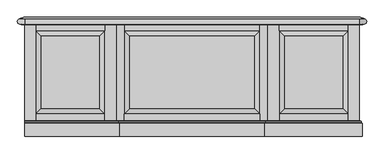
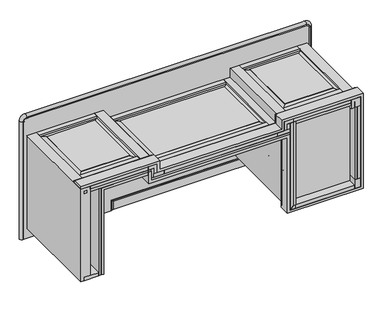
"""IFC4 building model written with IfcOpenShell, lengths in millimetres: proxy geometry, CCN^BRIGHTON_L1 36x84 LT FIXED DESK-SINGLE PED PARTS SOLID."""

from ifc_helpers import new_model, si_unit, point, frame, frame_2d, origin, origin_with_axes, place, context, project, spatial, polyline, circle_curve, ellipse_curve, trimmed, segment, composite_curve, outline, extrude, faceted_brep, source, transform, mapped, element, save
from ifc_brep_helpers import plane_surface, cylinder_surface, revolved_surface, advanced_brep


def generic_models_9f4ddb43(model_context):
    return source(origin(), model_context, "Body", "SolidModel", [
        extrude(outline(composite_curve([segment(polyline([(101.6, 1912.2818542), (101.6, 1900.9681458)]), True, "CONTINUOUS"), segment(trimmed(circle_curve(frame_2d((94.6, 1906.625)), 9.0), [point((101.6, 1900.9681458))], [point((94.6, 1897.625))], False, "CARTESIAN"), True, "CONTINUOUS"), segment(trimmed(circle_curve(frame_2d((257.1694928, 1825.625)), 177.8), [point((94.6, 1897.625))], [point((94.6, 1753.625))], True, "CARTESIAN"), True, "CONTINUOUS"), segment(trimmed(circle_curve(frame_2d((94.6, 1744.625)), 9.0), [point((94.6, 1753.625))], [point((101.6, 1750.2818542))], False, "CARTESIAN"), True, "CONTINUOUS"), segment(polyline([(101.6, 1750.2818542), (101.6, 1738.9681458)]), True, "CONTINUOUS"), segment(trimmed(circle_curve(frame_2d((94.6, 1744.625)), 9.0), [point((101.6, 1738.9681458))], [point((85.9865772, 1742.015604))], False, "CARTESIAN"), True, "CONTINUOUS"), segment(trimmed(circle_curve(frame_2d((361.975, 1825.625)), 288.375), [point((85.9865772, 1742.015604))], [point((85.9865772, 1909.234396))], False, "CARTESIAN"), True, "CONTINUOUS"), segment(trimmed(circle_curve(frame_2d((94.6, 1906.625)), 9.0), [point((85.9865772, 1909.234396))], [point((101.6, 1912.2818542))], False, "CARTESIAN"), True, "CONTINUOUS")], self_intersect=False)), frame((0.0, 413.1, 0.0), z_axis=(0.0, 1.0, 0.0), x_axis=(0.0, 0.0, 1.0)), (0.0, 0.0, 1.0), 12.0),
        extrude(outline(polyline([(1606.55, 0.0), (1606.55, 139.7), (2044.7, 139.7), (2044.7, 0.0), (1606.55, 0.0)])), frame((0.0, 0.0, 101.6), z_axis=(0.0, 0.0, 1.0), x_axis=(1.0, 0.0, 0.0)), (0.0, 0.0, 1.0), 25.4),
        advanced_brep(
        [(-21.4882387, 698.5, 0.0), (631.0882387, 698.5, 0.0), (631.0882387, 698.5, 80.1117613), (2089.15, 698.5, 80.1117613), (2110.6382387, 698.5, 101.6), (2110.6382387, 698.5, 927.1), (2089.15, 698.5, 948.5882387), (0.0, 698.5, 948.5882387), (-21.4882387, 698.5, 927.1), (2109.3555763, 738.0019522, 947.3055763), (2117.725, 734.9557311, 927.1), (2117.725, 734.9557311, 101.6), (2109.3555763, 738.0019522, 81.3944237), (2095.7609266, 742.95, 94.9890734), (2095.7609266, 742.95, 933.7109266), (-6.6109266, 742.95, 933.7109266), (-20.2055763, 738.0019522, 947.3055763), (0.0, 734.9557311, 955.675), (2089.15, 734.9557311, 955.675), (2089.15, 733.3682311, 955.675), (2117.725, 733.3682311, 927.1), (2089.15, 734.9557311, 73.025), (638.175, 734.9557311, 73.025), (616.2109266, 742.95, 94.9890734), (2117.725, 733.3682311, 101.6), (2089.15, 733.3682311, 73.025), (-28.575, 734.9557311, 927.1), (-28.575, 733.3682311, 927.1), (0.0, 733.3682311, 955.675), (-6.6109266, 742.95, 0.0), (-28.575, 734.9557311, 0.0), (638.175, 734.9557311, 0.0), (616.2109266, 742.95, 0.0), (-27.4410714, 701.6587803, 927.1), (-28.575, 733.3682311, 0.0), (-27.4410714, 701.6587803, 0.0), (0.0, 701.6587803, 954.5410714), (638.175, 733.3682311, 0.0), (637.0410714, 701.6587803, 0.0), (637.0410714, 701.6587803, 74.1589286), (636.5875, 701.675, 74.6125), (638.175, 733.3682311, 73.025), (638.175, 701.6182311, 73.025), (2089.15, 701.6587803, 74.1589286), (2089.15, 701.6587803, 954.5410714), (2116.5910714, 701.6587803, 101.6), (2116.5910714, 701.6587803, 927.1)],
        [
            (0, 1),
            (1, 2),
            (2, 3),
            (3, 4, circle_curve(frame((2089.15, 698.5, 101.6), z_axis=(0.0, -1.0, 0.0), x_axis=(1.0, 0.0, 0.0)), 21.4882387)),
            (4, 5),
            (5, 6, circle_curve(frame((2089.15, 698.5, 927.1), z_axis=(0.0, -1.0, 0.0), x_axis=(0.0, 0.0, 1.0)), 21.4882387)),
            (6, 7),
            (7, 8, circle_curve(frame((0.0, 698.5, 927.1), z_axis=(0.0, -1.0, 0.0), x_axis=(0.0, 0.0, 1.0)), 21.4882387)),
            (8, 0),
            (9, 10, ellipse_curve(frame((2089.15, 745.3561805, 927.1), z_axis=(0.34202014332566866, 0.9396926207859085, 0.0), x_axis=(-0.9396926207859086, 0.3420201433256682, 0.0)), 30.4088798, 28.575)),
            (10, 11),
            (11, 12, ellipse_curve(frame((2089.15, 745.3561805, 101.6), z_axis=(0.34202014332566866, 0.9396926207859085, 0.0), x_axis=(-0.9396926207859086, 0.3420201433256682, 0.0)), 30.4088798, 28.575)),
            (12, 13),
            (13, 14),
            (14, 9),
            (14, 15),
            (15, 16),
            (16, 17, ellipse_curve(frame((0.0, 745.3561805, 927.1), z_axis=(0.0, 0.9396926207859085, 0.3420201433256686), x_axis=(0.0, -0.34202014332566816, 0.9396926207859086)), 30.4088798, 28.575)),
            (17, 18),
            (18, 9, ellipse_curve(frame((2089.15, 745.3561805, 927.1), z_axis=(0.0, 0.9396926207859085, 0.3420201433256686), x_axis=(0.0, 0.34202014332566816, -0.9396926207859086)), 30.4088798, 28.575)),
            (18, 19),
            (19, 20, circle_curve(frame((2089.15, 733.3682311, 927.1), z_axis=(0.0, 1.0, 0.0), x_axis=(0.0, 0.0, 1.0)), 28.575)),
            (20, 10),
            (12, 21, ellipse_curve(frame((2089.15, 745.3561805, 101.6), z_axis=(0.0, 0.9396926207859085, -0.3420201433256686), x_axis=(0.0, 0.34202014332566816, 0.9396926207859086)), 30.4088798, 28.575)),
            (21, 22),
            (22, 23),
            (23, 13),
            (11, 24),
            (24, 25, circle_curve(frame((2089.15, 733.3682311, 101.6), z_axis=(0.0, 1.0, 0.0), x_axis=(1.0, 0.0, 0.0)), 28.575)),
            (25, 21),
            (16, 26, ellipse_curve(frame((0.0, 745.3561805, 927.1), z_axis=(0.3420201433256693, -0.9396926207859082, 0.0), x_axis=(-0.9396926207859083, -0.3420201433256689, 0.0)), 30.4088798, 28.575)),
            (26, 27),
            (27, 28, circle_curve(frame((0.0, 733.3682311, 927.1), z_axis=(0.0, 1.0, 0.0), x_axis=(1.0, 0.0, 0.0)), 28.575)),
            (28, 17),
            (15, 29),
            (29, 30),
            (30, 26),
            (31, 32),
            (32, 23),
            (22, 31),
            (32, 29),
            (33, 27, circle_curve(frame((-28.575, 717.4932311, 927.1), z_axis=(0.0, 0.0, -1.0), x_axis=(-0.9993612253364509, -0.03573711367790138, 0.0)), 15.875)),
            (27, 34),
            (34, 35, circle_curve(frame((-28.575, 717.4932311, 0.0), z_axis=(0.0, 0.0, 1.0), x_axis=(-0.9993612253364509, -0.03573711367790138, 0.0)), 15.875)),
            (35, 33),
            (8, 33, circle_curve(frame((-26.9875, 695.325, 927.1), z_axis=(0.0, 0.0, 1.0), x_axis=(0.07142857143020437, -0.9974457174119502, 0.0)), 6.35)),
            (35, 0, circle_curve(frame((-26.9875, 695.325, 0.0), z_axis=(0.0, 0.0, -1.0), x_axis=(0.07142857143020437, -0.9974457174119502, 0.0)), 6.35)),
            (30, 34),
            (36, 28, circle_curve(frame((0.0, 717.4932311, 955.675), z_axis=(-1.0, 0.0, 0.0), x_axis=(0.0, 0.0, 1.0)), 15.875)),
            (33, 36, circle_curve(frame((0.0, 701.6587803, 927.1), z_axis=(0.0, 1.0, 0.0), x_axis=(0.0, 0.0, 1.0)), 27.4410714)),
            (7, 36, circle_curve(frame((0.0, 695.325, 954.0875), z_axis=(1.0, 0.0, 0.0), x_axis=(0.0, 0.0, 1.0)), 6.35)),
            (31, 37),
            (37, 38, circle_curve(frame((638.175, 717.4932311, 0.0), z_axis=(0.0, 0.0, -1.0), x_axis=(0.999361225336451, -0.03573711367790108, 0.0)), 15.875)),
            (38, 1, circle_curve(frame((636.5875, 695.325, 0.0), z_axis=(0.0, 0.0, 1.0), x_axis=(0.866025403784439, -0.4999999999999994, 0.0)), 6.35)),
            (39, 40, ellipse_curve(frame((636.5875, 695.325, 74.6125), z_axis=(0.7071067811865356, 0.0, 0.7071067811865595), x_axis=(-0.7071067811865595, 0.0, 0.7071067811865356)), 8.9802561, 6.35)),
            (40, 2, ellipse_curve(frame((636.5875, 695.325, 74.6125), z_axis=(0.7071067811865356, 0.0, 0.7071067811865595), x_axis=(-0.7071067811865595, 0.0, 0.7071067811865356)), 8.9802561, 6.35)),
            (38, 39),
            (41, 42, ellipse_curve(frame((638.175, 717.4932311, 73.025), z_axis=(-0.7071067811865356, 0.0, -0.7071067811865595), x_axis=(-0.7071067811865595, 0.0, 0.7071067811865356)), 22.4506403, 15.875)),
            (42, 39, ellipse_curve(frame((638.175, 717.4932311, 73.025), z_axis=(-0.7071067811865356, 0.0, -0.7071067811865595), x_axis=(-0.7071067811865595, 0.0, 0.7071067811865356)), 22.4506403, 15.875)),
            (37, 41),
            (22, 41),
            (41, 25),
            (25, 43, circle_curve(frame((2089.15, 717.4932311, 73.025), z_axis=(-1.0, 0.0, 0.0), x_axis=(0.0, 0.996424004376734, -0.08449380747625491)), 15.875)),
            (43, 39),
            (6, 44, circle_curve(frame((2089.15, 695.325, 954.0875), z_axis=(1.0, 0.0, 0.0), x_axis=(0.0, 0.9974457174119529, 0.07142857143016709)), 6.35)),
            (44, 36),
            (43, 3, circle_curve(frame((2089.15, 695.325, 74.6125), z_axis=(1.0, 0.0, 0.0), x_axis=(0.0, 0.9974457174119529, -0.07142857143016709)), 6.35)),
            (45, 4, circle_curve(frame((2116.1375, 695.325, 101.6), z_axis=(0.0, 0.0, 1.0), x_axis=(1.0, 0.0, 0.0)), 6.35)),
            (43, 45, circle_curve(frame((2089.15, 701.6587803, 101.6), z_axis=(0.0, -1.0, 0.0), x_axis=(1.0, 0.0, 0.0)), 27.4410714)),
            (46, 5, circle_curve(frame((2116.1375, 695.325, 927.1), z_axis=(0.0, 0.0, 1.0), x_axis=(0.07142857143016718, 0.9974457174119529, 0.0)), 6.35)),
            (45, 46),
            (46, 44, circle_curve(frame((2089.15, 701.6587803, 927.1), z_axis=(0.0, -1.0, 0.0), x_axis=(0.0, 0.0, 1.0)), 27.4410714)),
            (28, 19),
            (44, 19, circle_curve(frame((2089.15, 717.4932311, 955.675), z_axis=(-1.0, 0.0, 0.0), x_axis=(0.0, 0.996424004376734, 0.08449380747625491)), 15.875)),
            (24, 45, circle_curve(frame((2117.725, 717.4932311, 101.6), z_axis=(0.0, 0.0, -1.0), x_axis=(1.0, 0.0, 0.0)), 15.875)),
            (20, 24),
            (20, 46, circle_curve(frame((2117.725, 717.4932311, 927.1), z_axis=(0.0, 0.0, -1.0), x_axis=(0.084493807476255, 0.996424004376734, 0.0)), 15.875)),
        ],
        [
            plane_surface(frame((1066.8, 698.5, 514.35), z_axis=(0.0, -1.0, 0.0), x_axis=(0.0, 0.0, -1.0))),
            plane_surface(frame((2117.725, 734.9557311, 927.1), z_axis=(0.34202014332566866, 0.9396926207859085, 0.0), x_axis=(-0.9396926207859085, 0.34202014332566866, 0.0))),
            plane_surface(frame((44.45, 734.9557311, 955.675), z_axis=(0.0, 0.9396926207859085, 0.3420201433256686), x_axis=(0.0, 0.3420201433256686, -0.9396926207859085))),
            cylinder_surface(frame((2089.15, 734.1619811, 927.1), z_axis=(0.0, 1.0, 0.0), x_axis=(0.0, 0.0, 1.0)), 28.575),
            plane_surface(frame((2089.15, 734.9557311, 73.025), z_axis=(0.0, 0.9396926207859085, -0.3420201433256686), x_axis=(0.0, 0.3420201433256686, 0.9396926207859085))),
            cylinder_surface(frame((2089.15, 734.1619811, 101.6), z_axis=(0.0, 1.0, 0.0), x_axis=(1.0, 0.0, 0.0)), 28.575),
            cylinder_surface(frame((0.0, 734.1619811, 927.1), z_axis=(0.0, -1.0, 0.0), x_axis=(1.0, 0.0, 0.0)), 28.575),
            plane_surface(frame((-28.575, 734.9557311, 927.1), z_axis=(-0.3420201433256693, 0.9396926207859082, 0.0), x_axis=(0.9396926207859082, 0.3420201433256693, 0.0))),
            plane_surface(frame((638.175, 734.9557311, 0.0), z_axis=(0.342020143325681, 0.939692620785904, 0.0), x_axis=(-0.939692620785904, 0.342020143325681, 0.0))),
            plane_surface(frame((1066.8, 742.95, 514.35), z_axis=(0.0, 1.0, 0.0), x_axis=(0.0, 0.0, -1.0))),
            cylinder_surface(frame((-28.575, 717.4932311, 927.1), z_axis=(0.0, 0.0, -0.9999999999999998), x_axis=(-0.9993612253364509, -0.03573711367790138, 0.0)), 15.875),
            revolved_surface(polyline([(-26.533928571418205, 688.9912196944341, 2.2737367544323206e-13), (-26.533928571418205, 688.9912196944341, 927.1)]), (-26.9875, 695.325, 927.1), (0.0, 0.0, -0.9999999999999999)),
            plane_surface(frame((-28.575, 733.3682311, 927.1), z_axis=(-1.0, 0.0, 0.0), x_axis=(0.0, 1.0, 0.0))),
            revolved_surface(trimmed(ellipse_curve(frame((0.0, 717.4932311, 955.675), z_axis=(1.0, 0.0, 0.0), x_axis=(0.0, 0.0, 1.0)), 15.875, 15.875), [point((0.0, 733.3682311, 955.675))], [point((0.0, 701.6587803, 954.5410714))], True, "CARTESIAN"), (0.0, 717.4932311, 927.1), (0.0, -1.0, 0.0)),
            revolved_surface(trimmed(ellipse_curve(frame((0.0, 695.325, 954.0875), z_axis=(-1.0, 0.0, 0.0), x_axis=(0.0, 0.0, 1.0)), 6.35, 6.35), [point((0.0, 701.6587803, 954.5410714))], [point((0.0, 698.5, 948.5882387))], True, "CARTESIAN"), (0.0, 695.325, 927.1), (0.0, -1.0, 0.0)),
            plane_surface(frame((-22.225, 720.725, 0.0), z_axis=(0.0, 0.0, -1.0), x_axis=(-1.0, 0.0, 0.0))),
            revolved_surface(polyline([(642.0867613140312, 692.1500000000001, 80.96249998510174), (642.0867613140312, 692.1500000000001, 0.0)]), (636.5875, 695.325, 0.0), (0.0, 0.0, 1.0)),
            cylinder_surface(frame((638.175, 717.4932311, 0.0), z_axis=(0.0, 0.0, 1.0), x_axis=(0.999361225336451, -0.03573711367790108, 0.0)), 15.875),
            plane_surface(frame((638.175, 733.3682311, 0.0), z_axis=(1.0, 0.0, 0.0), x_axis=(0.0, 1.0, 0.0))),
            cylinder_surface(frame((2089.15, 717.4932311, 73.025), z_axis=(-0.9999999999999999, 0.0, 0.0), x_axis=(0.0, 0.996424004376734, -0.08449380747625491)), 15.875),
            plane_surface(frame((2089.15, 733.3682311, 73.025), z_axis=(0.0, 0.0, -1.0), x_axis=(0.0, 1.0, 0.0))),
            revolved_surface(polyline([(2089.1499999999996, 701.658780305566, 954.5410714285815), (1.4210854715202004e-14, 701.658780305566, 954.5410714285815)]), (44.45, 695.325, 954.0875), (0.9999999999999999, 0.0, 0.0)),
            revolved_surface(polyline([(630.2375000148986, 701.658780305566, 74.15892857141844), (2089.15, 701.658780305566, 74.15892857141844)]), (2089.15, 695.325, 74.6125), (-0.9999999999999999, 0.0, 0.0)),
            revolved_surface(trimmed(ellipse_curve(frame((2116.1375, 695.325, 101.6), z_axis=(0.0, 0.0, -1.0), x_axis=(1.0, 0.0, 0.0)), 6.35, 6.35), [point((2110.6382387, 698.5, 101.6))], [point((2116.5910714, 701.6587803, 101.6))], True, "CARTESIAN"), (2089.15, 695.325, 101.6), (0.0, 1.0, 0.0)),
            revolved_surface(polyline([(2116.5910714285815, 701.658780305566, 101.60000000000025), (2116.5910714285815, 701.658780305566, 927.1)]), (2116.1375, 695.325, 927.1), (0.0, 0.0, -0.9999999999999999)),
            revolved_surface(trimmed(ellipse_curve(frame((2089.15, 695.325, 954.0875), z_axis=(1.0, 0.0, 0.0), x_axis=(0.0, 0.0, 1.0)), 6.35, 6.35), [point((2089.15, 698.5, 948.5882387))], [point((2089.15, 701.6587803, 954.5410714))], True, "CARTESIAN"), (2089.15, 695.325, 927.1), (0.0, 1.0, 0.0)),
            plane_surface(frame((44.45, 733.3682311, 955.675), z_axis=(0.0, 0.0, 1.0), x_axis=(0.0, 1.0, 0.0))),
            cylinder_surface(frame((44.45, 717.4932311, 955.675), z_axis=(0.9999999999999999, 0.0, 0.0), x_axis=(0.0, 0.996424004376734, 0.08449380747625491)), 15.875),
            revolved_surface(trimmed(ellipse_curve(frame((2117.725, 717.4932311, 101.6), z_axis=(0.0, 0.0, 1.0), x_axis=(1.0, 0.0, 0.0)), 15.875, 15.875), [point((2116.5910714, 701.6587803, 101.6))], [point((2117.725, 733.3682311, 101.6))], True, "CARTESIAN"), (2089.15, 717.4932311, 101.6), (0.0, 1.0, 0.0)),
            plane_surface(frame((2117.725, 733.3682311, 927.1), z_axis=(1.0, 0.0, 0.0), x_axis=(0.0, 1.0, 0.0))),
            cylinder_surface(frame((2117.725, 717.4932311, 927.1), z_axis=(0.0, 0.0, -0.9999999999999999), x_axis=(0.084493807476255, 0.996424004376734, 0.0)), 15.875),
            revolved_surface(trimmed(ellipse_curve(frame((2089.15, 717.4932311, 955.675), z_axis=(-1.0, 0.0, 0.0), x_axis=(0.0, 0.0, 1.0)), 15.875, 15.875), [point((2089.15, 701.6587803, 954.5410714))], [point((2089.15, 733.3682311, 955.675))], True, "CARTESIAN"), (2089.15, 717.4932311, 927.1), (0.0, 1.0, 0.0)),
        ],
        [
            (0, [[1, 2, 3, 4, 5, 6, 7, 8, 9]]),
            (1, [[10, 11, 12, 13, 14, 15]]),
            (2, [[-15, 16, 17, 18, 19, 20]]),
            (3, [[-10, -20, 21, 22, 23]]),
            (4, [[24, 25, 26, 27, -13]]),
            (5, [[-24, -12, 28, 29, 30]]),
            (6, [[-18, 31, 32, 33, 34]]),
            (7, [[-17, 35, 36, 37, -31]]),
            (8, [[38, 39, -26, 40]]),
            (9, [[41, -35, -16, -14, -27, -39]]),
            (10, [[42, 43, 44, 45]]),
            (11, [[46, -45, 47, -9]]),
            (12, [[-32, -37, 48, -43]]),
            (13, [[49, -33, -42, 50]]),
            (14, [[51, -50, -46, -8]]),
            (15, [[-38, 52, 53, 54, -1, -47, -44, -48, -36, -41]]),
            (16, [[55, 56, -2, -54, 57]]),
            (17, [[58, 59, -57, -53, 60]]),
            (18, [[61, -60, -52, -40]]),
            (19, [[-59, -58, 62, 63, 64]]),
            (20, [[-61, -25, -30, -62]]),
            (21, [[-7, 65, 66, -51]]),
            (22, [[-56, -55, -64, 67, -3]]),
            (23, [[68, -4, -67, 69]]),
            (24, [[70, -5, -68, 71]]),
            (25, [[-65, -6, -70, 72]]),
            (26, [[73, -21, -19, -34]]),
            (27, [[-66, 74, -73, -49]]),
            (28, [[75, -69, -63, -29]]),
            (29, [[-23, 76, -28, -11]]),
            (30, [[77, -71, -75, -76]]),
            (31, [[-74, -72, -77, -22]]),
        ],
    ),
        extrude(outline(polyline([(1466.85, 139.7), (1466.85, 0.0), (622.3, 0.0), (622.3, 139.7), (1466.85, 139.7)])), frame((0.0, 0.0, 717.55), z_axis=(0.0, 0.0, 1.0), x_axis=(1.0, 0.0, 0.0)), (0.0, 0.0, 1.0), 25.4),
        extrude(outline(polyline([(25.4, 0.0), (25.4, 704.85), (44.45, 704.85), (44.45, 0.0), (25.4, 0.0)])), frame((0.0, 0.0, 768.35), z_axis=(0.0, 0.0, 1.0), x_axis=(1.0, 0.0, 0.0)), (0.0, 0.0, 1.0), 19.05),
        extrude(outline(polyline([(546.1, 0.0), (546.1, 704.85), (622.3, 704.85), (622.3, 0.0), (546.1, 0.0)])), frame((0.0, 0.0, 717.55), z_axis=(0.0, 0.0, 1.0), x_axis=(1.0, 0.0, 0.0)), (0.0, 0.0, 1.0), 25.4),
        extrude(outline(polyline([(1466.85, 704.85), (1562.1, 704.85), (1562.1, 0.0), (1466.85, 0.0), (1466.85, 704.85)])), frame((0.0, 0.0, 717.55), z_axis=(0.0, 0.0, 1.0), x_axis=(1.0, 0.0, 0.0)), (0.0, 0.0, 1.0), 25.4),
        extrude(outline(polyline([(133.35, 704.85), (133.35, 0.0), (25.4, 0.0), (25.4, 704.85), (133.35, 704.85)])), frame((0.0, 0.0, 82.55), z_axis=(0.0, 0.0, 1.0), x_axis=(1.0, 0.0, 0.0)), (0.0, 0.0, 1.0), 25.4),
        advanced_brep(
        [(590.55, 79.375, 831.85), (584.2, 85.725, 825.5), (0.0, 85.725, 825.5), (0.0, 79.375, 831.85), (577.85, 92.075, 819.15), (0.0, 92.075, 819.15), (577.85, 95.25, 819.15), (0.0, 95.25, 819.15), (577.85, 95.25, 749.3), (1511.3, 95.25, 749.3), (1511.3, 95.25, 819.15), (2095.5, 95.25, 819.15), (2095.5, 95.25, 95.25), (1555.75, 95.25, 95.25), (1555.75, 95.25, 692.15), (520.7, 95.25, 692.15), (520.7, 95.25, 762.0), (158.75, 95.25, 762.0), (158.75, 95.25, 82.55), (152.4, 95.25, 82.55), (152.4, 95.25, 768.35), (527.05, 95.25, 768.35), (527.05, 95.25, 698.5), (1562.1, 95.25, 698.5), (1562.1, 95.25, 101.6), (2089.15, 95.25, 101.6), (2089.15, 95.25, 812.8), (1517.65, 95.25, 812.8), (1517.65, 95.25, 742.95), (571.5, 95.25, 742.95), (571.5, 95.25, 812.8), (0.0, 95.25, 812.8), (584.2, 85.725, 755.65), (577.85, 92.075, 749.3), (590.55, 79.375, 762.0), (152.4, 0.0, 768.35), (152.4, 0.0, 82.55), (158.75, 92.075, 762.0), (158.75, 92.075, 82.55), (165.1, 85.725, 755.65), (165.1, 85.725, 82.55), (171.45, 79.375, 749.3), (171.45, 79.375, 82.55), (171.45, 0.0, 749.3), (171.45, 0.0, 82.55), (508.0, 0.0, 749.3), (508.0, 0.0, 679.45), (1543.05, 0.0, 679.45), (1543.05, 0.0, 82.55), (2108.2, 0.0, 82.55), (2108.2, 0.0, 831.85), (1498.6, 0.0, 831.85), (1498.6, 0.0, 762.0), (590.55, 0.0, 762.0), (590.55, 0.0, 831.85), (0.0, 0.0, 831.85), (0.0, 0.0, 812.8), (571.5, 0.0, 812.8), (571.5, 0.0, 742.95), (1517.65, 0.0, 742.95), (1517.65, 0.0, 812.8), (2089.15, 0.0, 812.8), (2089.15, 0.0, 101.6), (1562.1, 0.0, 101.6), (1562.1, 0.0, 698.5), (527.05, 0.0, 698.5), (527.05, 0.0, 768.35), (508.0, 79.375, 749.3), (514.35, 85.725, 755.65), (520.7, 92.075, 762.0), (520.7, 92.075, 692.15), (514.35, 85.725, 685.8), (508.0, 79.375, 679.45), (1555.75, 92.075, 692.15), (1549.4, 85.725, 685.8), (1543.05, 79.375, 679.45), (1555.75, 92.075, 95.25), (1549.4, 85.725, 88.9), (1543.05, 79.375, 82.55), (2095.5, 92.075, 95.25), (2101.85, 85.725, 88.9), (2108.2, 79.375, 82.55), (2095.5, 92.075, 819.15), (2101.85, 85.725, 825.5), (2108.2, 79.375, 831.85), (1511.3, 92.075, 819.15), (1504.95, 85.725, 825.5), (1498.6, 79.375, 831.85), (1511.3, 92.075, 749.3), (1504.95, 85.725, 755.65), (1498.6, 79.375, 762.0)],
        [
            (0, 1, ellipse_curve(frame((590.55, 85.725, 831.85), z_axis=(0.7071067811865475, 0.0, -0.7071067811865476), x_axis=(0.7071067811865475, 0.0, 0.7071067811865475)), 8.9802561, 6.35)),
            (1, 2),
            (2, 3, circle_curve(frame((0.0, 85.725, 831.85), z_axis=(-1.0, 0.0, 0.0), x_axis=(0.0, 0.0, -1.0)), 6.35)),
            (3, 0),
            (1, 4, ellipse_curve(frame((577.85, 85.725, 819.15), z_axis=(-0.7071067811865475, 0.0, 0.7071067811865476), x_axis=(0.7071067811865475, 0.0, 0.7071067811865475)), 8.9802561, 6.35)),
            (4, 5),
            (5, 2, circle_curve(frame((0.0, 85.725, 819.15), z_axis=(1.0, 0.0, 0.0), x_axis=(0.0, 0.0, -1.0)), 6.35)),
            (4, 6),
            (6, 7),
            (7, 5),
            (6, 8),
            (8, 9),
            (9, 10),
            (10, 11),
            (11, 12),
            (12, 13),
            (13, 14),
            (14, 15),
            (15, 16),
            (16, 17),
            (17, 18),
            (18, 19),
            (19, 20),
            (20, 21),
            (21, 22),
            (22, 23),
            (23, 24),
            (24, 25),
            (25, 26),
            (26, 27),
            (27, 28),
            (28, 29),
            (29, 30),
            (30, 31),
            (31, 7),
            (1, 32),
            (32, 33, ellipse_curve(frame((577.85, 85.725, 749.3), z_axis=(-0.7071067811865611, 0.0, 0.7071067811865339), x_axis=(-0.7071067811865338, 0.0, -0.7071067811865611)), 8.9802561, 6.35)),
            (33, 4),
            (0, 34),
            (34, 32, ellipse_curve(frame((590.55, 85.725, 762.0), z_axis=(0.7071067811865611, 0.0, -0.7071067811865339), x_axis=(-0.7071067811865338, 0.0, -0.7071067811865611)), 8.9802561, 6.35)),
            (35, 20),
            (19, 36),
            (36, 35),
            (17, 37),
            (37, 38),
            (38, 18),
            (37, 39, ellipse_curve(frame((158.75, 85.725, 762.0), z_axis=(-0.7071067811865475, 0.0, -0.7071067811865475), x_axis=(-0.7071067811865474, 0.0, 0.7071067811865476)), 8.9802561, 6.35)),
            (39, 40),
            (40, 38, circle_curve(frame((158.75, 85.725, 82.55), z_axis=(0.0, 0.0, 1.0), x_axis=(-3.670123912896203e-12, 1.0, 0.0)), 6.35)),
            (39, 41, ellipse_curve(frame((171.45, 85.725, 749.3), z_axis=(0.7071067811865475, 0.0, 0.7071067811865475), x_axis=(-0.7071067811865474, 0.0, 0.7071067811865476)), 8.9802561, 6.35)),
            (41, 42),
            (42, 40, circle_curve(frame((171.45, 85.725, 82.55), z_axis=(0.0, 0.0, -1.0), x_axis=(0.0, 1.0, 0.0)), 6.35)),
            (41, 43),
            (43, 44),
            (44, 42),
            (44, 36),
            (43, 45),
            (45, 46),
            (46, 47),
            (47, 48),
            (48, 49),
            (49, 50),
            (50, 51),
            (51, 52),
            (52, 53),
            (53, 54),
            (54, 55),
            (55, 56),
            (56, 57),
            (57, 58),
            (58, 59),
            (59, 60),
            (60, 61),
            (61, 62),
            (62, 63),
            (63, 64),
            (64, 65),
            (65, 66),
            (66, 35),
            (41, 67),
            (67, 45),
            (39, 68),
            (68, 67, ellipse_curve(frame((508.0, 85.725, 749.3), z_axis=(0.7071067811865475, 0.0, -0.7071067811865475), x_axis=(-0.7071067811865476, 0.0, -0.7071067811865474)), 8.9802561, 6.35)),
            (37, 69),
            (69, 68, ellipse_curve(frame((520.7, 85.725, 762.0), z_axis=(-0.7071067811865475, 0.0, 0.7071067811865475), x_axis=(-0.7071067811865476, 0.0, -0.7071067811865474)), 8.9802561, 6.35)),
            (66, 21),
            (16, 69),
            (70, 71, ellipse_curve(frame((520.7, 85.725, 692.15), z_axis=(-0.7071067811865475, 0.0, 0.7071067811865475), x_axis=(0.7071067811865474, 0.0, 0.7071067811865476)), 8.9802561, 6.35)),
            (71, 68),
            (69, 70),
            (71, 72, ellipse_curve(frame((508.0, 85.725, 679.45), z_axis=(0.7071067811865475, 0.0, -0.7071067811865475), x_axis=(0.7071067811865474, 0.0, 0.7071067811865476)), 8.9802561, 6.35)),
            (72, 67),
            (15, 70),
            (73, 74, ellipse_curve(frame((1555.75, 85.725, 692.15), z_axis=(-0.7071067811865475, 0.0, 0.7071067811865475), x_axis=(-0.7071067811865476, 0.0, -0.7071067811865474)), 8.9802561, 6.35)),
            (74, 71),
            (70, 73),
            (74, 75, ellipse_curve(frame((1543.05, 85.725, 679.45), z_axis=(0.7071067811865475, 0.0, -0.7071067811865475), x_axis=(-0.7071067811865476, 0.0, -0.7071067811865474)), 8.9802561, 6.35)),
            (75, 72),
            (14, 73),
            (76, 77, ellipse_curve(frame((1555.75, 85.725, 95.25), z_axis=(-0.7071067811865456, 0.0, 0.7071067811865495), x_axis=(0.7071067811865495, 0.0, 0.7071067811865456)), 8.9802561, 6.35)),
            (77, 74),
            (73, 76),
            (77, 78, ellipse_curve(frame((1543.05, 85.725, 82.55), z_axis=(0.7071067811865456, 0.0, -0.7071067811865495), x_axis=(0.7071067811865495, 0.0, 0.7071067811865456)), 8.9802561, 6.35)),
            (78, 75),
            (13, 76),
            (79, 80, ellipse_curve(frame((2095.5, 85.725, 95.25), z_axis=(-0.7071067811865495, 0.0, -0.7071067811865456), x_axis=(-0.7071067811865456, 0.0, 0.7071067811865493)), 8.9802561, 6.35)),
            (80, 77),
            (76, 79),
            (80, 81, ellipse_curve(frame((2108.2, 85.725, 82.55), z_axis=(0.7071067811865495, 0.0, 0.7071067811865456), x_axis=(-0.7071067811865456, 0.0, 0.7071067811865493)), 8.9802561, 6.35)),
            (81, 78),
            (12, 79),
            (82, 83, ellipse_curve(frame((2095.5, 85.725, 819.15), z_axis=(0.7071067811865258, 0.0, -0.7071067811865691), x_axis=(-0.7071067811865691, 0.0, -0.707106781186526)), 8.9802561, 6.35)),
            (83, 80),
            (79, 82),
            (83, 84, ellipse_curve(frame((2108.2, 85.725, 831.85), z_axis=(-0.7071067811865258, 0.0, 0.7071067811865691), x_axis=(-0.7071067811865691, 0.0, -0.707106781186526)), 8.9802561, 6.35)),
            (84, 81),
            (11, 82),
            (85, 86, ellipse_curve(frame((1511.3, 85.725, 819.15), z_axis=(0.7071067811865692, 0.0, 0.7071067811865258), x_axis=(0.7071067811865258, 0.0, -0.7071067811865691)), 8.9802561, 6.35)),
            (86, 83),
            (82, 85),
            (86, 87, ellipse_curve(frame((1498.6, 85.725, 831.85), z_axis=(-0.7071067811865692, 0.0, -0.7071067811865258), x_axis=(0.7071067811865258, 0.0, -0.7071067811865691)), 8.9802561, 6.35)),
            (87, 84),
            (10, 85),
            (88, 89, ellipse_curve(frame((1511.3, 85.725, 749.3), z_axis=(0.7071067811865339, 0.0, 0.7071067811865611), x_axis=(-0.7071067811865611, 0.0, 0.7071067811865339)), 8.9802561, 6.35)),
            (89, 86),
            (85, 88),
            (89, 90, ellipse_curve(frame((1498.6, 85.725, 762.0), z_axis=(-0.7071067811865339, 0.0, -0.7071067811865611), x_axis=(-0.7071067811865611, 0.0, 0.7071067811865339)), 8.9802561, 6.35)),
            (90, 87),
            (9, 88),
            (32, 89),
            (88, 33),
            (34, 90),
            (8, 33),
            (72, 46),
            (75, 47),
            (78, 48),
            (81, 49),
            (84, 50),
            (87, 51),
            (90, 52),
            (34, 53),
            (0, 54),
            (31, 56),
            (55, 3),
            (57, 30),
            (29, 58),
            (28, 59),
            (27, 60),
            (26, 61),
            (25, 62),
            (24, 63),
            (23, 64),
            (22, 65),
        ],
        [
            revolved_surface(polyline([(596.8999999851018, 85.725, 825.5), (0.0, 85.725, 825.5)]), (0.0, 85.725, 831.85), (1.0, 0.0, 0.0)),
            cylinder_surface(frame((0.0, 85.725, 819.15), z_axis=(1.0, 0.0, 0.0), x_axis=(0.0, 0.0, -1.0)), 6.35),
            plane_surface(frame((0.0, 92.075, 819.15), z_axis=(0.0, 0.0, 1.0), x_axis=(0.0, 1.0, 0.0))),
            plane_surface(frame((1066.8, 95.25, 457.2), z_axis=(0.0, 1.0, 0.0), x_axis=(0.0, 0.0, -1.0))),
            cylinder_surface(frame((577.85, 85.725, 831.85), z_axis=(0.0, 0.0, -1.0), x_axis=(-1.0, 0.0, 0.0)), 6.35),
            revolved_surface(polyline([(584.1999999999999, 85.725, 755.65), (584.1999999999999, 85.725, 838.1999999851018)]), (590.55, 85.725, 831.85), (0.0, 0.0, -1.0)),
            plane_surface(frame((152.4, 95.25, 82.55), z_axis=(-1.0, 0.0, 0.0), x_axis=(0.0, -1.0, 0.0))),
            plane_surface(frame((158.75, 92.075, 82.55), z_axis=(1.0, 0.0, 0.0), x_axis=(0.0, 1.0, 0.0))),
            cylinder_surface(frame((158.75, 85.725, 82.55), z_axis=(0.0, 0.0, 1.0), x_axis=(-3.670123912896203e-12, 1.0, 0.0)), 6.35),
            revolved_surface(polyline([(171.45, 92.07499999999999, 755.65), (171.45, 92.07499999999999, 82.55)]), (171.45, 85.725, 82.55), (0.0, 0.0, 1.0)),
            plane_surface(frame((171.45, 0.0, 82.55), z_axis=(1.0, 0.0, 0.0), x_axis=(0.0, 1.0, 0.0))),
            plane_surface(frame((161.925, 47.625, 82.55), z_axis=(0.0, 0.0, -1.0), x_axis=(-1.0, 0.0, 0.0))),
            plane_surface(frame((1066.8, 0.0, 457.2), z_axis=(0.0, -1.0, 0.0), x_axis=(0.0, 0.0, 1.0))),
            plane_surface(frame((508.0, 0.0, 749.3), z_axis=(0.0, 0.0, -1.0), x_axis=(-1.0, 0.0, 0.0))),
            revolved_surface(polyline([(165.10000000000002, 85.725, 755.65), (514.35, 85.725, 755.65)]), (508.0, 85.725, 749.3), (-1.0, 0.0, 0.0)),
            cylinder_surface(frame((520.7, 85.725, 762.0), z_axis=(-1.0, 0.0, 0.0), x_axis=(0.0, 0.0, 1.0)), 6.35),
            plane_surface(frame((44.45, 0.0, 768.35), z_axis=(0.0, 0.0, 1.0), x_axis=(1.0, 0.0, 0.0))),
            plane_surface(frame((520.7, 92.075, 762.0), z_axis=(0.0, 0.0, -1.0), x_axis=(0.0, 1.0, 0.0))),
            cylinder_surface(frame((520.7, 85.725, 692.15), z_axis=(0.0, 0.0, 1.0), x_axis=(1.0, 0.0, 0.0)), 6.35),
            revolved_surface(polyline([(514.35, 85.725, 755.65), (514.35, 85.725, 673.1000000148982)]), (508.0, 85.725, 679.45), (0.0, 0.0, 1.0)),
            plane_surface(frame((520.7, 92.075, 692.15), z_axis=(-1.0, 0.0, 0.0), x_axis=(0.0, 1.0, 0.0))),
            cylinder_surface(frame((1555.75, 85.725, 692.15), z_axis=(-1.0, 0.0, 0.0), x_axis=(0.0, 0.0, 1.0)), 6.35),
            revolved_surface(polyline([(501.65000001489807, 85.725, 685.8000000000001), (1549.4, 85.725, 685.8000000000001)]), (1543.05, 85.725, 679.45), (-1.0, 0.0, 0.0)),
            plane_surface(frame((1555.75, 92.075, 692.15), z_axis=(0.0, 0.0, -1.0), x_axis=(0.0, 1.0, 0.0))),
            cylinder_surface(frame((1555.75, 85.725, 95.25), z_axis=(0.0, 0.0, 1.0), x_axis=(1.0, 0.0, 0.0)), 6.35),
            revolved_surface(polyline([(1549.3999999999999, 85.725, 685.8), (1549.3999999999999, 85.725, 76.20000001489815)]), (1543.05, 85.725, 82.55), (0.0, 0.0, 1.0)),
            plane_surface(frame((1555.75, 92.075, 95.25), z_axis=(-1.0, 0.0, 0.0), x_axis=(0.0, 1.0, 0.0))),
            cylinder_surface(frame((2095.5, 85.725, 95.25), z_axis=(-1.0, 0.0, 0.0), x_axis=(0.0, 0.0, 1.0)), 6.35),
            revolved_surface(polyline([(1536.700000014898, 85.725, 88.89999999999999), (2114.5499999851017, 85.725, 88.89999999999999)]), (2108.2, 85.725, 82.55), (-1.0, 0.0, 0.0)),
            plane_surface(frame((2095.5, 92.075, 95.25), z_axis=(0.0, 0.0, -1.0), x_axis=(0.0, 1.0, 0.0))),
            cylinder_surface(frame((2095.5, 85.725, 819.15), z_axis=(0.0, 0.0, -1.0), x_axis=(-1.0, 0.0, 0.0)), 6.35),
            revolved_surface(polyline([(2101.85, 85.725, 76.20000001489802), (2101.85, 85.725, 838.1999999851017)]), (2108.2, 85.725, 831.85), (0.0, 0.0, -1.0)),
            plane_surface(frame((2095.5, 92.075, 819.15), z_axis=(1.0, 0.0, 0.0), x_axis=(0.0, 1.0, 0.0))),
            cylinder_surface(frame((1511.3, 85.725, 819.15), z_axis=(1.0, 0.0, 0.0), x_axis=(0.0, 0.0, -1.0)), 6.35),
            revolved_surface(polyline([(2114.5499999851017, 85.725, 825.5), (1492.2500000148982, 85.725, 825.5)]), (1498.6, 85.725, 831.85), (1.0, 0.0, 0.0)),
            plane_surface(frame((1511.3, 92.075, 819.15), z_axis=(0.0, 0.0, 1.0), x_axis=(0.0, 1.0, 0.0))),
            cylinder_surface(frame((1511.3, 85.725, 749.3), z_axis=(0.0, 0.0, 1.0), x_axis=(1.0, 0.0, 0.0)), 6.35),
            revolved_surface(polyline([(1504.9499999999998, 85.725, 838.1999999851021), (1504.9499999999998, 85.725, 755.65)]), (1498.6, 85.725, 762.0), (0.0, 0.0, 1.0)),
            plane_surface(frame((1511.3, 92.075, 749.3), z_axis=(-1.0, 0.0, 0.0), x_axis=(0.0, 1.0, 0.0))),
            cylinder_surface(frame((577.85, 85.725, 749.3), z_axis=(1.0, 0.0, 0.0), x_axis=(0.0, 0.0, -1.0)), 6.35),
            revolved_surface(polyline([(1504.95, 85.725, 755.65), (584.2, 85.725, 755.65)]), (590.55, 85.725, 762.0), (1.0, 0.0, 0.0)),
            plane_surface(frame((577.85, 92.075, 749.3), z_axis=(0.0, 0.0, 1.0), x_axis=(0.0, 1.0, 0.0))),
            plane_surface(frame((577.85, 92.075, 831.85), z_axis=(1.0, 0.0, 0.0), x_axis=(0.0, 1.0, 0.0))),
            plane_surface(frame((508.0, 0.0, 679.45), z_axis=(-1.0, 0.0, 0.0), x_axis=(0.0, 0.0, 1.0))),
            plane_surface(frame((1543.05, 0.0, 679.45), z_axis=(0.0, 0.0, -1.0), x_axis=(-1.0, 0.0, 0.0))),
            plane_surface(frame((1543.05, 0.0, 82.55), z_axis=(-1.0, 0.0, 0.0), x_axis=(0.0, 0.0, 1.0))),
            plane_surface(frame((2108.2, 0.0, 82.55), z_axis=(0.0, 0.0, -1.0), x_axis=(-1.0, 0.0, 0.0))),
            plane_surface(frame((2108.2, 0.0, 831.85), z_axis=(1.0, 0.0, 0.0), x_axis=(0.0, 0.0, -1.0))),
            plane_surface(frame((1498.6, 0.0, 831.85), z_axis=(0.0, 0.0, 1.0), x_axis=(1.0, 0.0, 0.0))),
            plane_surface(frame((1498.6, 0.0, 762.0), z_axis=(-1.0, 0.0, 0.0), x_axis=(0.0, 0.0, 1.0))),
            plane_surface(frame((590.55, 0.0, 762.0), z_axis=(0.0, 0.0, 1.0), x_axis=(1.0, 0.0, 0.0))),
            plane_surface(frame((590.55, 0.0, 831.85), z_axis=(1.0, 0.0, 0.0), x_axis=(0.0, 0.0, -1.0))),
            plane_surface(frame((0.0, 47.625, 822.325), z_axis=(-1.0, 0.0, 0.0), x_axis=(0.0, 0.0, 1.0))),
            plane_surface(frame((571.5, 0.0, 742.95), z_axis=(-1.0, 0.0, 0.0), x_axis=(0.0, 0.0, 1.0))),
            plane_surface(frame((1517.65, 0.0, 742.95), z_axis=(0.0, 0.0, -1.0), x_axis=(-1.0, 0.0, 0.0))),
            plane_surface(frame((1517.65, 0.0, 812.8), z_axis=(1.0, 0.0, 0.0), x_axis=(0.0, 0.0, -1.0))),
            plane_surface(frame((2089.15, 0.0, 812.8), z_axis=(0.0, 0.0, -1.0), x_axis=(-1.0, 0.0, 0.0))),
            plane_surface(frame((2089.15, 0.0, 101.6), z_axis=(-1.0, 0.0, 0.0), x_axis=(0.0, 0.0, 1.0))),
            plane_surface(frame((1562.1, 0.0, 101.6), z_axis=(0.0, 0.0, 1.0), x_axis=(1.0, 0.0, 0.0))),
            plane_surface(frame((1562.1, 0.0, 698.5), z_axis=(1.0, 0.0, 0.0), x_axis=(0.0, 0.0, -1.0))),
            plane_surface(frame((527.05, 0.0, 698.5), z_axis=(0.0, 0.0, 1.0), x_axis=(1.0, 0.0, 0.0))),
            plane_surface(frame((527.05, 0.0, 768.35), z_axis=(1.0, 0.0, 0.0), x_axis=(0.0, 0.0, -1.0))),
            plane_surface(frame((25.4, 0.0, 831.85), z_axis=(0.0, 0.0, 1.0), x_axis=(1.0, 0.0, 0.0))),
            plane_surface(frame((571.5, 0.0, 812.8), z_axis=(0.0, 0.0, -1.0), x_axis=(-1.0, 0.0, 0.0))),
        ],
        [
            (0, [[1, 2, 3, 4]]),
            (1, [[5, 6, 7, -2]]),
            (2, [[8, 9, 10, -6]]),
            (3, [[-9, 11, 12, 13, 14, 15, 16, 17, 18, 19, 20, 21, 22, 23, 24, 25, 26, 27, 28, 29, 30, 31, 32, 33, 34, 35]]),
            (4, [[-5, 36, 37, 38]]),
            (5, [[-1, 39, 40, -36]]),
            (6, [[41, -23, 42, 43]]),
            (7, [[44, 45, 46, -21]]),
            (8, [[47, 48, 49, -45]]),
            (9, [[50, 51, 52, -48]]),
            (10, [[53, 54, 55, -51]]),
            (11, [[-46, -49, -52, -55, 56, -42, -22]]),
            (12, [[57, 58, 59, 60, 61, 62, 63, 64, 65, 66, 67, 68, 69, 70, 71, 72, 73, 74, 75, 76, 77, 78, 79, -43, -56, -54]]),
            (13, [[-53, 80, 81, -57]]),
            (14, [[-50, 82, 83, -80]]),
            (15, [[-47, 84, 85, -82]]),
            (16, [[-41, -79, 86, -24]]),
            (17, [[-44, -20, 87, -84]]),
            (18, [[88, 89, -85, 90]]),
            (19, [[91, 92, -83, -89]]),
            (20, [[93, -90, -87, -19]]),
            (21, [[94, 95, -88, 96]]),
            (22, [[97, 98, -91, -95]]),
            (23, [[99, -96, -93, -18]]),
            (24, [[100, 101, -94, 102]]),
            (25, [[103, 104, -97, -101]]),
            (26, [[105, -102, -99, -17]]),
            (27, [[106, 107, -100, 108]]),
            (28, [[109, 110, -103, -107]]),
            (29, [[111, -108, -105, -16]]),
            (30, [[112, 113, -106, 114]]),
            (31, [[115, 116, -109, -113]]),
            (32, [[117, -114, -111, -15]]),
            (33, [[118, 119, -112, 120]]),
            (34, [[121, 122, -115, -119]]),
            (35, [[123, -120, -117, -14]]),
            (36, [[124, 125, -118, 126]]),
            (37, [[127, 128, -121, -125]]),
            (38, [[129, -126, -123, -13]]),
            (39, [[-37, 130, -124, 131]]),
            (40, [[-40, 132, -127, -130]]),
            (41, [[133, -131, -129, -12]]),
            (42, [[-8, -38, -133, -11]]),
            (43, [[-92, 134, -58, -81]]),
            (44, [[-98, 135, -59, -134]]),
            (45, [[-104, 136, -60, -135]]),
            (46, [[-110, 137, -61, -136]]),
            (47, [[-116, 138, -62, -137]]),
            (48, [[-122, 139, -63, -138]]),
            (49, [[-128, 140, -64, -139]]),
            (50, [[-132, 141, -65, -140]]),
            (51, [[-39, 142, -66, -141]]),
            (52, [[-10, -35, 143, -68, 144, -3, -7]]),
            (53, [[-70, 145, -33, 146]]),
            (54, [[-71, -146, -32, 147]]),
            (55, [[-72, -147, -31, 148]]),
            (56, [[-73, -148, -30, 149]]),
            (57, [[-74, -149, -29, 150]]),
            (58, [[-75, -150, -28, 151]]),
            (59, [[-76, -151, -27, 152]]),
            (60, [[-77, -152, -26, 153]]),
            (61, [[-78, -153, -25, -86]]),
            (62, [[-4, -144, -67, -142]]),
            (63, [[-69, -143, -34, -145]]),
        ],
    ),
        extrude(outline(polyline([(101.6, 1606.55), (127.0, 1606.55), (127.0, 1587.5), (101.6, 1562.1), (101.6, 1606.55)])), frame((0.0, 0.0, 0.0), z_axis=(0.0, 1.0, 0.0), x_axis=(0.0, 0.0, 1.0)), (0.0, 0.0, 1.0), 704.85),
        extrude(outline(polyline([(622.3, 660.4), (622.3, 704.85), (1466.85, 704.85), (1466.85, 660.4), (622.3, 660.4)])), frame((0.0, 0.0, 717.55), z_axis=(0.0, 0.0, 1.0), x_axis=(1.0, 0.0, 0.0)), (0.0, 0.0, 1.0), 25.4),
        faceted_brep([(625.475, 657.225, 723.9), (625.475, 657.225, 731.2676131), (1463.675, 657.225, 731.2676131), (1463.675, 657.225, 723.9), (657.225, 625.475, 739.775), (1431.925, 625.475, 739.775), (657.225, 625.475, 742.95), (1431.925, 625.475, 742.95), (625.475, 142.875, 723.9), (625.475, 142.875, 731.2676131), (657.225, 174.625, 739.775), (657.225, 174.625, 742.95), (622.3, 139.7, 723.9), (1466.85, 139.7, 723.9), (1466.85, 660.4, 723.9), (622.3, 660.4, 723.9), (1463.675, 142.875, 723.9), (1463.675, 142.875, 731.2676131), (1431.925, 174.625, 739.775), (1431.925, 174.625, 742.95), (1466.85, 139.7, 717.55), (1466.85, 660.4, 717.55), (622.3, 139.7, 717.55), (622.3, 660.4, 717.55)], [[[0, 1, 2, 3]], [[1, 4, 5, 2]], [[4, 6, 7, 5]], [[8, 9, 1, 0]], [[9, 10, 4, 1]], [[10, 11, 6, 4]], [[12, 13, 14, 15], [3, 16, 8, 0]], [[16, 17, 9, 8]], [[17, 18, 10, 9]], [[18, 19, 11, 10]], [[3, 2, 17, 16]], [[2, 5, 18, 17]], [[5, 7, 19, 18]], [[14, 13, 20, 21]], [[13, 12, 22, 20]], [[12, 15, 23, 22]], [[15, 14, 21, 23]], [[7, 6, 11, 19]], [[23, 21, 20, 22]]]),
        extrude(outline(polyline([(152.4, 0.0), (133.35, 0.0), (133.35, 704.85), (152.4, 704.85), (152.4, 0.0)])), frame((0.0, 0.0, 82.55), z_axis=(0.0, 0.0, 1.0), x_axis=(1.0, 0.0, 0.0)), (0.0, 0.0, 1.0), 685.8),
        extrude(outline(polyline([(2019.3, 0.0), (2019.3, 704.85), (2089.15, 704.85), (2089.15, 0.0), (2019.3, 0.0)])), frame((0.0, 0.0, 742.95), z_axis=(0.0, 0.0, 1.0), x_axis=(1.0, 0.0, 0.0)), (0.0, 0.0, 1.0), 69.85),
        extrude(outline(polyline([(69.85, 704.85), (69.85, 0.0), (0.0, 0.0), (0.0, 704.85), (69.85, 704.85)])), frame((0.0, 0.0, 82.55), z_axis=(0.0, 0.0, 1.0), x_axis=(1.0, 0.0, 0.0)), (0.0, 0.0, 1.0), 730.25),
        extrude(outline(polyline([(101.6, 1562.1), (127.0, 1587.5), (787.4, 1587.5), (787.4, 1562.1), (101.6, 1562.1)])), frame((0.0, 0.0, 0.0), z_axis=(0.0, 1.0, 0.0), x_axis=(0.0, 0.0, 1.0)), (0.0, 0.0, 1.0), 704.85),
        extrude(outline(polyline([(2089.15, 139.7), (2089.15, 0.0), (2063.75, 0.0), (2063.75, 139.7), (2089.15, 139.7)])), frame((0.0, 0.0, 171.45), z_axis=(0.0, 0.0, 1.0), x_axis=(1.0, 0.0, 0.0)), (0.0, 0.0, 1.0), 571.5),
        extrude(outline(polyline([(1606.55, 704.85), (1606.55, 0.0), (1587.5, 0.0), (1587.5, 704.85), (1606.55, 704.85)])), frame((0.0, 0.0, 127.0), z_axis=(0.0, 0.0, 1.0), x_axis=(1.0, 0.0, 0.0)), (0.0, 0.0, 1.0), 660.4),
        extrude(outline(polyline([(527.05, 704.85), (546.1, 704.85), (546.1, 0.0), (527.05, 0.0), (527.05, 704.85)])), frame((0.0, 0.0, 717.55), z_axis=(0.0, 0.0, 1.0), x_axis=(1.0, 0.0, 0.0)), (0.0, 0.0, 1.0), 69.85),
        faceted_brep([(1609.725, 657.225, 113.2823869), (1641.475, 625.475, 104.775), (1641.475, 473.075, 104.775), (1609.725, 473.075, 113.2823869), (1641.475, 625.475, 101.6), (1641.475, 473.075, 101.6), (2041.525, 657.225, 113.2823869), (2009.775, 625.475, 104.775), (2009.775, 625.475, 101.6), (2041.525, 473.075, 113.2823869), (2009.775, 473.075, 104.775), (2009.775, 473.075, 101.6), (2041.525, 657.225, 127.0), (2041.525, 473.075, 127.0), (1609.725, 473.075, 127.0), (1609.725, 657.225, 127.0)], [[[0, 1, 2, 3]], [[1, 4, 5, 2]], [[6, 7, 1, 0]], [[7, 8, 4, 1]], [[9, 10, 7, 6]], [[10, 11, 8, 7]], [[5, 4, 8, 11]], [[9, 6, 12, 13]], [[0, 3, 14, 15]], [[6, 0, 15, 12]], [[2, 5, 11, 10, 9, 13, 14, 3]], [[14, 13, 12, 15]]]),
        extrude(outline(polyline([(1587.5, 660.4), (1587.5, 704.85), (2019.3, 704.85), (2019.3, 660.4), (1587.5, 660.4)])), frame((0.0, 0.0, 787.4), z_axis=(0.0, 0.0, 1.0), x_axis=(1.0, 0.0, 0.0)), (0.0, 0.0, 1.0), 25.4),
        extrude(outline(polyline([(501.65, 704.85), (501.65, 660.4), (69.85, 660.4), (69.85, 704.85), (501.65, 704.85)])), frame((0.0, 0.0, 787.4), z_axis=(0.0, 0.0, 1.0), x_axis=(1.0, 0.0, 0.0)), (0.0, 0.0, 1.0), 25.4),
        extrude(outline(polyline([(44.45, 0.0), (44.45, 704.85), (527.05, 704.85), (527.05, 0.0), (44.45, 0.0)])), frame((0.0, 0.0, 768.35), z_axis=(0.0, 0.0, 1.0), x_axis=(1.0, 0.0, 0.0)), (0.0, 0.0, 1.0), 19.05),
        extrude(outline(polyline([(2044.7, 704.85), (2044.7, 0.0), (1606.55, 0.0), (1606.55, 704.85), (2044.7, 704.85)])), frame((0.0, 0.0, 768.35), z_axis=(0.0, 0.0, 1.0), x_axis=(1.0, 0.0, 0.0)), (0.0, 0.0, 1.0), 19.05),
        faceted_brep([(1590.675, 657.225, 801.1176131), (1622.425, 625.475, 809.625), (1984.375, 625.475, 809.625), (2016.125, 657.225, 801.1176131), (1622.425, 625.475, 812.8), (1984.375, 625.475, 812.8), (1590.675, 657.225, 793.75), (2016.125, 657.225, 793.75), (1590.675, 142.875, 801.1176131), (1622.425, 174.625, 809.625), (1622.425, 174.625, 812.8), (1590.675, 142.875, 793.75), (2016.125, 142.875, 801.1176131), (1984.375, 174.625, 809.625), (1984.375, 174.625, 812.8), (1587.5, 139.7, 793.75), (2019.3, 139.7, 793.75), (2019.3, 660.4, 793.75), (1587.5, 660.4, 793.75), (2016.125, 142.875, 793.75), (2019.3, 139.7, 787.4), (2019.3, 660.4, 787.4), (1587.5, 139.7, 787.4), (1587.5, 660.4, 787.4)], [[[0, 1, 2, 3]], [[1, 4, 5, 2]], [[6, 0, 3, 7]], [[8, 9, 1, 0]], [[9, 10, 4, 1]], [[11, 8, 0, 6]], [[12, 13, 9, 8]], [[13, 14, 10, 9]], [[15, 16, 17, 18], [7, 19, 11, 6]], [[19, 12, 8, 11]], [[2, 5, 14, 13]], [[3, 2, 13, 12]], [[7, 3, 12, 19]], [[17, 16, 20, 21]], [[16, 15, 22, 20]], [[15, 18, 23, 22]], [[18, 17, 21, 23]], [[5, 4, 10, 14]], [[23, 21, 20, 22]]]),
        faceted_brep([(466.725, 625.475, 809.625), (498.475, 657.225, 801.1176131), (73.025, 657.225, 801.1176131), (104.775, 625.475, 809.625), (466.725, 625.475, 812.8), (104.775, 625.475, 812.8), (498.475, 657.225, 793.75), (73.025, 657.225, 793.75), (466.725, 174.625, 809.625), (498.475, 142.875, 801.1176131), (466.725, 174.625, 812.8), (498.475, 142.875, 793.75), (104.775, 174.625, 809.625), (73.025, 142.875, 801.1176131), (104.775, 174.625, 812.8), (69.85, 139.7, 793.75), (501.65, 139.7, 793.75), (501.65, 660.4, 793.75), (69.85, 660.4, 793.75), (73.025, 142.875, 793.75), (69.85, 660.4, 787.4), (69.85, 139.7, 787.4), (501.65, 139.7, 787.4), (501.65, 660.4, 787.4)], [[[0, 1, 2, 3]], [[4, 0, 3, 5]], [[1, 6, 7, 2]], [[8, 9, 1, 0]], [[10, 8, 0, 4]], [[9, 11, 6, 1]], [[12, 13, 9, 8]], [[14, 12, 8, 10]], [[15, 16, 17, 18], [19, 7, 6, 11]], [[13, 19, 11, 9]], [[5, 3, 12, 14]], [[3, 2, 13, 12]], [[2, 7, 19, 13]], [[15, 18, 20, 21]], [[16, 15, 21, 22]], [[17, 16, 22, 23]], [[18, 17, 23, 20]], [[4, 5, 14, 10]], [[20, 23, 22, 21]]]),
        faceted_brep([(2077.4676131, 657.225, 739.775), (2085.975, 625.475, 708.025), (2085.975, 625.475, 206.375), (2077.4676131, 657.225, 174.625), (2089.15, 625.475, 708.025), (2089.15, 625.475, 206.375), (2070.1, 657.225, 739.775), (2070.1, 657.225, 174.625), (2077.4676131, 142.875, 739.775), (2085.975, 174.625, 708.025), (2089.15, 174.625, 708.025), (2070.1, 142.875, 739.775), (2077.4676131, 142.875, 174.625), (2085.975, 174.625, 206.375), (2089.15, 174.625, 206.375), (2070.1, 139.7, 742.95), (2070.1, 139.7, 171.45), (2070.1, 660.4, 171.45), (2070.1, 660.4, 742.95), (2070.1, 142.875, 174.625), (2063.75, 139.7, 171.45), (2063.75, 660.4, 171.45), (2063.75, 139.7, 742.95), (2063.75, 660.4, 742.95)], [[[0, 1, 2, 3]], [[1, 4, 5, 2]], [[6, 0, 3, 7]], [[8, 9, 1, 0]], [[9, 10, 4, 1]], [[11, 8, 0, 6]], [[12, 13, 9, 8]], [[13, 14, 10, 9]], [[15, 16, 17, 18], [7, 19, 11, 6]], [[19, 12, 8, 11]], [[2, 5, 14, 13]], [[3, 2, 13, 12]], [[7, 3, 12, 19]], [[17, 16, 20, 21]], [[16, 15, 22, 20]], [[15, 18, 23, 22]], [[18, 17, 21, 23]], [[5, 4, 10, 14]], [[23, 21, 20, 22]]]),
        extrude(outline(polyline([(1606.55, 88.9), (2044.7, 88.9), (2044.7, 63.5), (1606.55, 63.5), (1606.55, 88.9)])), frame((0.0, 0.0, 127.0), z_axis=(0.0, 0.0, 1.0), x_axis=(1.0, 0.0, 0.0)), (0.0, 0.0, 1.0), 641.35),
        extrude(outline(polyline([(2044.7, 704.85), (2089.15, 704.85), (2089.15, 0.0), (2044.7, 0.0), (2044.7, 704.85)])), frame((0.0, 0.0, 101.6), z_axis=(0.0, 0.0, 1.0), x_axis=(1.0, 0.0, 0.0)), (0.0, 0.0, 1.0), 69.85),
        extrude(outline(polyline([(1543.05, 704.85), (1562.1, 704.85), (1562.1, 0.0), (1543.05, 0.0), (1543.05, 704.85)])), frame((0.0, 0.0, 742.95), z_axis=(0.0, 0.0, 1.0), x_axis=(1.0, 0.0, 0.0)), (0.0, 0.0, 1.0), 44.45),
        extrude(outline(polyline([(501.65, 0.0), (501.65, 704.85), (571.5, 704.85), (571.5, 0.0), (501.65, 0.0)])), frame((0.0, 0.0, 742.95), z_axis=(0.0, 0.0, 1.0), x_axis=(1.0, 0.0, 0.0)), (0.0, 0.0, 1.0), 69.85),
        extrude(outline(polyline([(1517.65, 704.85), (1587.5, 704.85), (1587.5, 0.0), (1517.65, 0.0), (1517.65, 704.85)])), frame((0.0, 0.0, 742.95), z_axis=(0.0, 0.0, 1.0), x_axis=(1.0, 0.0, 0.0)), (0.0, 0.0, 1.0), 69.85),
        extrude(outline(polyline([(2044.7, 704.85), (2044.7, 660.4), (1606.55, 660.4), (1606.55, 704.85), (2044.7, 704.85)])), frame((0.0, 0.0, 101.6), z_axis=(0.0, 0.0, 1.0), x_axis=(1.0, 0.0, 0.0)), (0.0, 0.0, 1.0), 25.4),
        extrude(outline(polyline([(2089.15, 704.85), (2089.15, 660.4), (2063.75, 660.4), (2063.75, 704.85), (2089.15, 704.85)])), frame((0.0, 0.0, 171.45), z_axis=(0.0, 0.0, 1.0), x_axis=(1.0, 0.0, 0.0)), (0.0, 0.0, 1.0), 571.5),
        extrude(outline(polyline([(2063.75, 0.0), (2044.7, 0.0), (2044.7, 704.85), (2063.75, 704.85), (2063.75, 0.0)])), frame((0.0, 0.0, 127.0), z_axis=(0.0, 0.0, 1.0), x_axis=(1.0, 0.0, 0.0)), (0.0, 0.0, 1.0), 660.4),
        extrude(outline(polyline([(1562.1, 704.85), (1562.1, 0.0), (527.05, 0.0), (527.05, 704.85), (1562.1, 704.85)])), frame((0.0, 0.0, 698.5), z_axis=(0.0, 0.0, 1.0), x_axis=(1.0, 0.0, 0.0)), (0.0, 0.0, 1.0), 19.05),
        extrude(outline(polyline([(2089.15, 742.95), (2089.15, 704.85), (0.0, 704.85), (0.0, 742.95), (2089.15, 742.95)])), origin_with_axes(), (0.0, 0.0, 1.0), 927.1),
        faceted_brep([(1641.475, 174.625, 101.6), (1641.475, 174.625, 104.775), (1641.475, 469.9, 104.775), (1641.475, 469.9, 101.6), (1609.725, 142.875, 113.2823869), (1609.725, 469.9, 113.2823869), (2009.775, 174.625, 101.6), (2009.775, 174.625, 104.775), (2041.525, 142.875, 113.2823869), (2009.775, 469.9, 101.6), (2009.775, 469.9, 104.775), (2041.525, 469.9, 113.2823869), (1609.725, 142.875, 127.0), (1609.725, 469.9, 127.0), (2041.525, 142.875, 127.0), (2041.525, 469.9, 127.0)], [[[0, 1, 2, 3]], [[1, 4, 5, 2]], [[6, 7, 1, 0]], [[7, 8, 4, 1]], [[9, 10, 7, 6]], [[10, 11, 8, 7]], [[5, 4, 12, 13]], [[4, 8, 14, 12]], [[8, 11, 15, 14]], [[2, 5, 13, 15, 11, 10, 9, 3]], [[0, 3, 9, 6]], [[12, 14, 15, 13]]]),
        extrude(outline(polyline([(2019.3, 139.7), (2019.3, 0.0), (1587.5, 0.0), (1587.5, 139.7), (2019.3, 139.7)])), frame((0.0, 0.0, 787.4), z_axis=(0.0, 0.0, 1.0), x_axis=(1.0, 0.0, 0.0)), (0.0, 0.0, 1.0), 25.4),
        extrude(outline(polyline([(69.85, 0.0), (69.85, 139.7), (501.65, 139.7), (501.65, 0.0), (69.85, 0.0)])), frame((0.0, 0.0, 787.4), z_axis=(0.0, 0.0, 1.0), x_axis=(1.0, 0.0, 0.0)), (0.0, 0.0, 1.0), 25.4),
        extrude(outline(composite_curve([segment(polyline([(101.6, 1912.2818542), (101.6, 1900.9681458)]), True, "CONTINUOUS"), segment(trimmed(circle_curve(frame_2d((94.6, 1906.625)), 9.0), [point((101.6, 1900.9681458))], [point((94.6, 1897.625))], False, "CARTESIAN"), True, "CONTINUOUS"), segment(trimmed(circle_curve(frame_2d((257.1694928, 1825.625)), 177.8), [point((94.6, 1897.625))], [point((94.6, 1753.625))], True, "CARTESIAN"), True, "CONTINUOUS"), segment(trimmed(circle_curve(frame_2d((94.6, 1744.625)), 9.0), [point((94.6, 1753.625))], [point((101.6, 1750.2818542))], False, "CARTESIAN"), True, "CONTINUOUS"), segment(polyline([(101.6, 1750.2818542), (101.6, 1738.9681458)]), True, "CONTINUOUS"), segment(trimmed(circle_curve(frame_2d((94.6, 1744.625)), 9.0), [point((101.6, 1738.9681458))], [point((85.9865772, 1742.015604))], False, "CARTESIAN"), True, "CONTINUOUS"), segment(trimmed(circle_curve(frame_2d((361.975, 1825.625)), 288.375), [point((85.9865772, 1742.015604))], [point((85.9865772, 1909.234396))], False, "CARTESIAN"), True, "CONTINUOUS"), segment(trimmed(circle_curve(frame_2d((94.6, 1906.625)), 9.0), [point((85.9865772, 1909.234396))], [point((101.6, 1912.2818542))], False, "CARTESIAN"), True, "CONTINUOUS")], self_intersect=False)), frame((0.0, 600.425, 0.0), z_axis=(0.0, 1.0, 0.0), x_axis=(0.0, 0.0, 1.0)), (0.0, 0.0, 1.0), 12.0),
    ])


if __name__ == "__main__":
    model = new_model("IFC4")
    model_context = context("Model", 3, world=origin())
    ifc_project = project(units=[si_unit("LENGTHUNIT", "METRE", prefix="MILLI")], contexts=[model_context])
    site = spatial("IfcSite", under=ifc_project)
    building = spatial("IfcBuilding", under=site)
    placement = place(None, origin())
    generic_models_shape = generic_models_9f4ddb43(model_context)
    element("IfcBuildingElementProxy", 1, Name="CCN^BRIGHTON_L1 36x84 LT FIXED DESK-SINGLE PED PARTS SOLID", ObjectType="CCN^BRIGHTON_L1 36x84 LT FIXED DESK-SINGLE PED PARTS SOLID", at=placement, inside=building, context=model_context, shape_type="MappedRepresentation", body=[
        mapped(generic_models_shape, transform((0.0, 0.0, 0.0), x_axis=(1.0, 0.0, 0.0), y_axis=(0.0, 1.0, 0.0), z_axis=(0.0, 0.0, 1.0))),
    ])
    save(model, "model.ifc")
